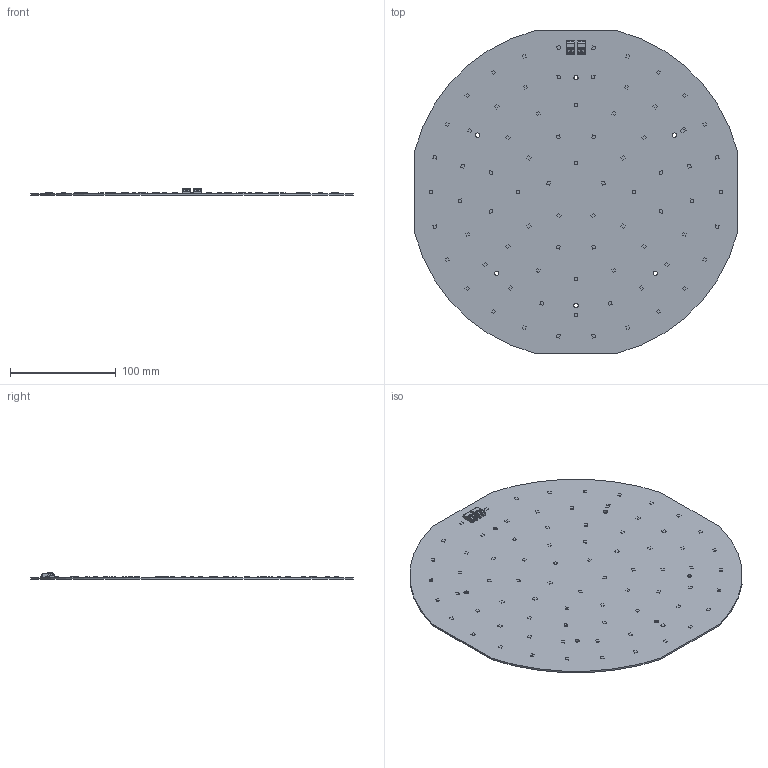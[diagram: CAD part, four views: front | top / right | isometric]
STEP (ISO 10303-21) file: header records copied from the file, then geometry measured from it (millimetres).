
FILE_DESCRIPTION((''),'2;1');
FILE_NAME('16208844_CLE-G4-315-ADV-EM','2019-06-17T13:38:03',('bernhard.fink'),(''),'CREO PARAMETRIC BY PTC INC, 2017380','CREO PARAMETRIC BY PTC INC, 2017380','');
FILE_SCHEMA(('AUTOMOTIVE_DESIGN { 1 0 10303 214 1 1 1 1 }'));
Length unit declared in the file: millimetre
Products named in the file (1): 16208844_CLE-G4-315-ADV-EM
Bounding box: 305 x 305 x 6.15 mm (x, y, z)
Volume: 127659.6 mm3; surface area: 156919.4 mm2
Topology: 1 solids, 1 shells, 769 faces, 2066 edges, 1384 vertices
Faces by surface type: plane 641, cylinder 124, sphere 4
Entity records: 35946 total; most frequent: CARTESIAN_POINT 4443, ORIENTED_EDGE 4132, DIRECTION 3856, PRESENTATION_STYLE_ASSIGNMENT 2810, STYLED_ITEM 2067, CURVE_STYLE 2066, EDGE_CURVE 2066, VECTOR 1734
